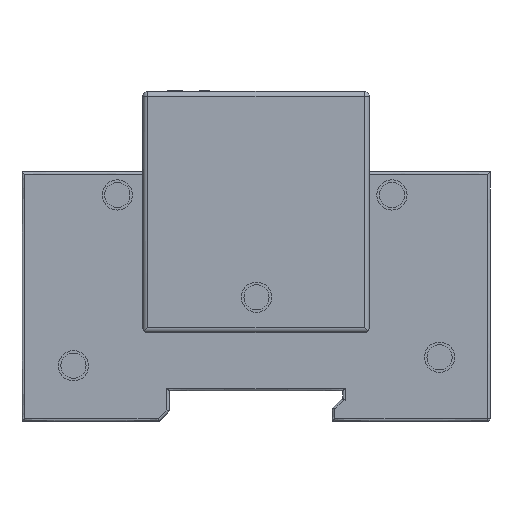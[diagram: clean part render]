
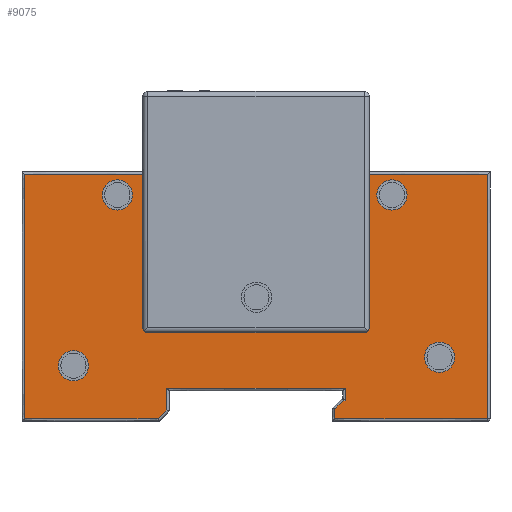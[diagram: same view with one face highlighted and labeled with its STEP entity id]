
A CAD part, left-side view. The second image highlights one B-rep face of the part: STEP entity #9075.
In plain terms, the highlighted planar face has unit normal (-1, 0, 0).
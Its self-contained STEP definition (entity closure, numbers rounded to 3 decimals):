
#303=FACE_BOUND('',#1660,.T.);
#304=FACE_BOUND('',#1661,.T.);
#305=FACE_BOUND('',#1662,.T.);
#306=FACE_BOUND('',#1663,.T.);
#680=PLANE('',#9711);
#1059=FACE_OUTER_BOUND('',#1659,.T.);
#1659=EDGE_LOOP('',(#6551,#6552,#6553,#6554,#6555,#6556,#6557,#6558,#6559,
#6560,#6561,#6562,#6563,#6564,#6565,#6566,#6567,#6568));
#1660=EDGE_LOOP('',(#6569));
#1661=EDGE_LOOP('',(#6570));
#1662=EDGE_LOOP('',(#6571));
#1663=EDGE_LOOP('',(#6572));
#2313=LINE('',#12626,#3133);
#2317=LINE('',#12638,#3137);
#2348=LINE('',#12810,#3168);
#2375=LINE('',#12926,#3195);
#2376=LINE('',#13103,#3196);
#2377=LINE('',#13133,#3197);
#2378=LINE('',#13175,#3198);
#2379=LINE('',#13217,#3199);
#2380=LINE('',#13259,#3200);
#2381=LINE('',#13301,#3201);
#2382=LINE('',#13343,#3202);
#2383=LINE('',#13385,#3203);
#2384=LINE('',#13427,#3204);
#2385=LINE('',#13482,#3205);
#2386=LINE('',#13523,#3206);
#2387=LINE('',#13552,#3207);
#3133=VECTOR('',#10356,10.);
#3137=VECTOR('',#10368,10.);
#3168=VECTOR('',#10473,10.);
#3195=VECTOR('',#10524,10.);
#3196=VECTOR('',#10525,10.);
#3197=VECTOR('',#10526,10.);
#3198=VECTOR('',#10527,10.);
#3199=VECTOR('',#10528,10.);
#3200=VECTOR('',#10529,10.);
#3201=VECTOR('',#10530,10.);
#3202=VECTOR('',#10531,10.);
#3203=VECTOR('',#10532,10.);
#3204=VECTOR('',#10533,10.);
#3205=VECTOR('',#10534,10.);
#3206=VECTOR('',#10535,10.);
#3207=VECTOR('',#10536,10.);
#3951=CIRCLE('',#9621,1.);
#3953=CIRCLE('',#9625,1.);
#3972=CIRCLE('',#9696,3.);
#3974=CIRCLE('',#9700,3.);
#3976=CIRCLE('',#9704,3.);
#3978=CIRCLE('',#9708,3.);
#4139=VERTEX_POINT('',#12616);
#4140=VERTEX_POINT('',#12617);
#4143=VERTEX_POINT('',#12625);
#4145=VERTEX_POINT('',#12631);
#4147=VERTEX_POINT('',#12637);
#4183=VERTEX_POINT('',#12796);
#4197=VERTEX_POINT('',#12925);
#4198=VERTEX_POINT('',#13060);
#4199=VERTEX_POINT('',#13132);
#4200=VERTEX_POINT('',#13174);
#4201=VERTEX_POINT('',#13216);
#4202=VERTEX_POINT('',#13258);
#4203=VERTEX_POINT('',#13300);
#4204=VERTEX_POINT('',#13342);
#4205=VERTEX_POINT('',#13384);
#4206=VERTEX_POINT('',#13426);
#4207=VERTEX_POINT('',#13468);
#4208=VERTEX_POINT('',#13481);
#4218=VERTEX_POINT('',#13581);
#4220=VERTEX_POINT('',#13587);
#4222=VERTEX_POINT('',#13593);
#4224=VERTEX_POINT('',#13599);
#5015=EDGE_CURVE('',#4139,#4140,#3951,.T.);
#5019=EDGE_CURVE('',#4140,#4143,#2313,.T.);
#5022=EDGE_CURVE('',#4143,#4145,#3953,.T.);
#5025=EDGE_CURVE('',#4145,#4147,#2317,.T.);
#5078=EDGE_CURVE('',#4183,#4139,#2348,.T.);
#5106=EDGE_CURVE('',#4147,#4197,#2375,.T.);
#5110=EDGE_CURVE('',#4197,#4198,#2376,.T.);
#5111=EDGE_CURVE('',#4198,#4199,#2377,.T.);
#5113=EDGE_CURVE('',#4199,#4200,#2378,.T.);
#5115=EDGE_CURVE('',#4200,#4201,#2379,.T.);
#5117=EDGE_CURVE('',#4201,#4202,#2380,.T.);
#5119=EDGE_CURVE('',#4202,#4203,#2381,.T.);
#5121=EDGE_CURVE('',#4203,#4204,#2382,.T.);
#5123=EDGE_CURVE('',#4204,#4205,#2383,.T.);
#5125=EDGE_CURVE('',#4205,#4206,#2384,.T.);
#5128=EDGE_CURVE('',#4207,#4208,#2385,.T.);
#5130=EDGE_CURVE('',#4206,#4207,#2386,.T.);
#5131=EDGE_CURVE('',#4208,#4183,#2387,.T.);
#5141=EDGE_CURVE('',#4218,#4218,#3972,.T.);
#5143=EDGE_CURVE('',#4220,#4220,#3974,.T.);
#5145=EDGE_CURVE('',#4222,#4222,#3976,.T.);
#5147=EDGE_CURVE('',#4224,#4224,#3978,.T.);
#6551=ORIENTED_EDGE('',*,*,#5106,.F.);
#6552=ORIENTED_EDGE('',*,*,#5025,.F.);
#6553=ORIENTED_EDGE('',*,*,#5022,.F.);
#6554=ORIENTED_EDGE('',*,*,#5019,.F.);
#6555=ORIENTED_EDGE('',*,*,#5015,.F.);
#6556=ORIENTED_EDGE('',*,*,#5078,.F.);
#6557=ORIENTED_EDGE('',*,*,#5131,.F.);
#6558=ORIENTED_EDGE('',*,*,#5128,.F.);
#6559=ORIENTED_EDGE('',*,*,#5130,.F.);
#6560=ORIENTED_EDGE('',*,*,#5125,.F.);
#6561=ORIENTED_EDGE('',*,*,#5123,.F.);
#6562=ORIENTED_EDGE('',*,*,#5121,.F.);
#6563=ORIENTED_EDGE('',*,*,#5119,.F.);
#6564=ORIENTED_EDGE('',*,*,#5117,.F.);
#6565=ORIENTED_EDGE('',*,*,#5115,.F.);
#6566=ORIENTED_EDGE('',*,*,#5113,.F.);
#6567=ORIENTED_EDGE('',*,*,#5111,.F.);
#6568=ORIENTED_EDGE('',*,*,#5110,.F.);
#6569=ORIENTED_EDGE('',*,*,#5141,.T.);
#6570=ORIENTED_EDGE('',*,*,#5143,.T.);
#6571=ORIENTED_EDGE('',*,*,#5145,.T.);
#6572=ORIENTED_EDGE('',*,*,#5147,.T.);
#9075=ADVANCED_FACE('',(#1059,#303,#304,#305,#306),#680,.F.);
#9621=AXIS2_PLACEMENT_3D('',#12618,#10348,#10349);
#9625=AXIS2_PLACEMENT_3D('',#12632,#10361,#10362);
#9696=AXIS2_PLACEMENT_3D('',#13582,#10575,#10576);
#9700=AXIS2_PLACEMENT_3D('',#13588,#10583,#10584);
#9704=AXIS2_PLACEMENT_3D('',#13594,#10591,#10592);
#9708=AXIS2_PLACEMENT_3D('',#13600,#10599,#10600);
#9711=AXIS2_PLACEMENT_3D('',#13603,#10605,#10606);
#10348=DIRECTION('center_axis',(-1.,0.,0.));
#10349=DIRECTION('ref_axis',(0.,0.707,-0.707));
#10356=DIRECTION('',(0.,-1.,0.));
#10361=DIRECTION('center_axis',(-1.,0.,0.));
#10362=DIRECTION('ref_axis',(0.,-0.707,-0.707));
#10368=DIRECTION('',(0.,0.,1.));
#10473=DIRECTION('',(0.,0.,-1.));
#10524=DIRECTION('',(0.,-1.,0.));
#10525=DIRECTION('',(0.,0.,-1.));
#10526=DIRECTION('',(0.,1.,0.));
#10527=DIRECTION('',(0.,0.,1.));
#10528=DIRECTION('',(0.,-0.707,0.707));
#10529=DIRECTION('',(0.,-1.,0.));
#10530=DIRECTION('',(0.,0.,1.));
#10531=DIRECTION('',(0.,1.,0.));
#10532=DIRECTION('',(0.,0.,-1.));
#10533=DIRECTION('',(0.,0.707,-0.707));
#10534=DIRECTION('',(0.,0.,1.));
#10535=DIRECTION('',(0.,1.,0.));
#10536=DIRECTION('',(0.,-1.,0.));
#10575=DIRECTION('center_axis',(1.,0.,0.));
#10576=DIRECTION('ref_axis',(0.,0.,-1.));
#10583=DIRECTION('center_axis',(1.,0.,0.));
#10584=DIRECTION('ref_axis',(0.,0.,-1.));
#10591=DIRECTION('center_axis',(1.,0.,0.));
#10592=DIRECTION('ref_axis',(0.,0.,-1.));
#10599=DIRECTION('center_axis',(1.,0.,0.));
#10600=DIRECTION('ref_axis',(0.,0.,-1.));
#10605=DIRECTION('center_axis',(1.,0.,0.));
#10606=DIRECTION('ref_axis',(0.,0.,-1.));
#12616=CARTESIAN_POINT('',(0.,26.84,-10.543));
#12617=CARTESIAN_POINT('',(0.,25.84,-11.543));
#12618=CARTESIAN_POINT('Origin',(0.,25.84,-10.543));
#12625=CARTESIAN_POINT('',(0.,-17.16,-11.543));
#12626=CARTESIAN_POINT('',(0.,26.84,-11.543));
#12631=CARTESIAN_POINT('',(0.,-18.16,-10.543));
#12632=CARTESIAN_POINT('Origin',(0.,-17.16,-10.543));
#12637=CARTESIAN_POINT('',(0.,-18.16,19.908));
#12638=CARTESIAN_POINT('',(0.,-18.16,-11.543));
#12796=CARTESIAN_POINT('',(0.,26.84,19.908));
#12810=CARTESIAN_POINT('',(0.,26.84,20.408));
#12925=CARTESIAN_POINT('',(0.,-41.66,19.908));
#12926=CARTESIAN_POINT('',(0.,-6.994,19.908));
#13060=CARTESIAN_POINT('',(0.,-41.66,-28.592));
#13103=CARTESIAN_POINT('',(0.,-41.66,6.692));
#13132=CARTESIAN_POINT('',(0.,-11.313,-28.592));
#13133=CARTESIAN_POINT('',(0.,-18.994,-28.592));
#13174=CARTESIAN_POINT('',(0.,-11.313,-26.734));
#13175=CARTESIAN_POINT('',(0.,-11.313,-18.058));
#13216=CARTESIAN_POINT('',(0.,-13.02,-25.027));
#13217=CARTESIAN_POINT('',(0.,-12.296,-25.751));
#13258=CARTESIAN_POINT('',(0.,-13.41,-25.027));
#13259=CARTESIAN_POINT('',(0.,-4.32,-25.027));
#13300=CARTESIAN_POINT('',(0.,-13.41,-22.592));
#13301=CARTESIAN_POINT('',(0.,-13.41,-15.775));
#13342=CARTESIAN_POINT('',(0.,22.09,-22.592));
#13343=CARTESIAN_POINT('',(0.,-4.369,-22.592));
#13384=CARTESIAN_POINT('',(0.,22.09,-26.885));
#13385=CARTESIAN_POINT('',(0.,22.09,-15.058));
#13426=CARTESIAN_POINT('',(0.,23.797,-28.592));
#13427=CARTESIAN_POINT('',(0.,12.572,-17.367));
#13468=CARTESIAN_POINT('',(0.,50.34,-28.592));
#13481=CARTESIAN_POINT('',(0.,50.34,19.908));
#13482=CARTESIAN_POINT('',(0.,50.34,-18.058));
#13523=CARTESIAN_POINT('',(0.,13.881,-28.592));
#13552=CARTESIAN_POINT('',(0.,27.506,19.908));
#13581=CARTESIAN_POINT('',(0.,31.888,18.843));
#13582=CARTESIAN_POINT('Origin',(0.,31.888,15.843));
#13587=CARTESIAN_POINT('',(0.,40.611,-15.099));
#13588=CARTESIAN_POINT('Origin',(0.,40.611,-18.099));
#13593=CARTESIAN_POINT('',(0.,-32.132,-13.422));
#13594=CARTESIAN_POINT('Origin',(0.,-32.132,-16.422));
#13599=CARTESIAN_POINT('',(0.,-22.67,18.843));
#13600=CARTESIAN_POINT('Origin',(0.,-22.67,15.843));
#13603=CARTESIAN_POINT('Origin',(0.,4.172,-7.024));
